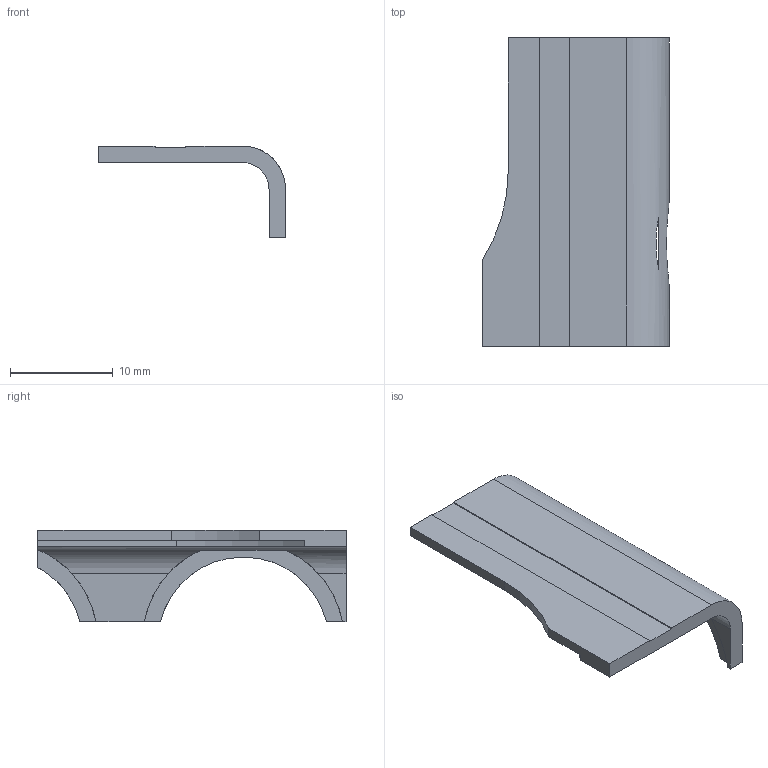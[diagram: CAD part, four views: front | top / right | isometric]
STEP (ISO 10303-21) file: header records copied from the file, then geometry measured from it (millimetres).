
FILE_DESCRIPTION(('Open CASCADE Model'),'2;1');
FILE_NAME('Open CASCADE Shape Model','2026-09-06T11:32:51',('Author'),( 'Open CASCADE'),'Open CASCADE STEP processor 7.7','Open CASCADE 7.7' ,'Unknown');
FILE_SCHEMA(('AUTOMOTIVE_DESIGN { 1 0 10303 214 1 1 1 1 }'));
Length unit declared in the file: millimetre
Products named in the file (1): Open CASCADE STEP translator 7.7 2
Bounding box: 18.2 x 30 x 8.95 mm (x, y, z)
Volume: 847.4 mm3; surface area: 1366.2 mm2
Topology: 1 solids, 1 shells, 34 faces, 104 edges, 71 vertices
Faces by surface type: plane 24, cylinder 10
Entity records: 2791 total; most frequent: CARTESIAN_POINT 937, DIRECTION 276, ORIENTED_EDGE 208, PCURVE 208, DEFINITIONAL_REPRESENTATION 208, LINE 144, VECTOR 144, B_SPLINE_CURVE_WITH_KNOTS 122
